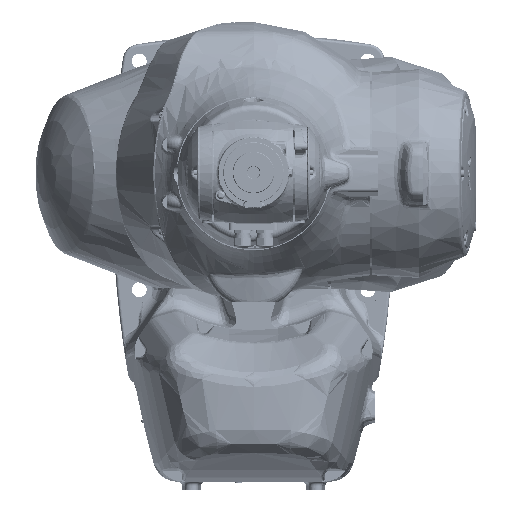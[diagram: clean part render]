
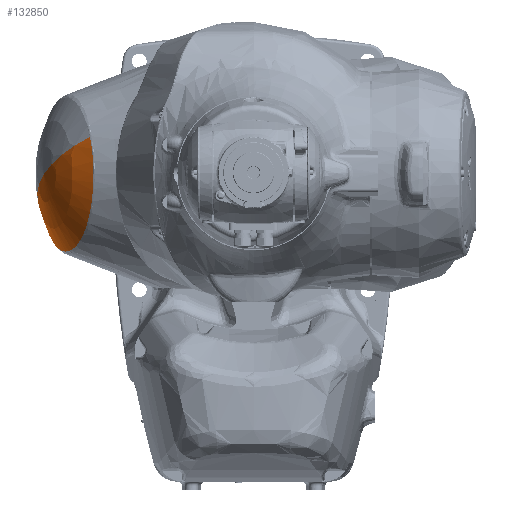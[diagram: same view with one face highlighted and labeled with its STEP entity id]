
A CAD part, top view. The second image highlights one B-rep face of the part: STEP entity #132850.
In plain terms, the highlighted spherical face has radius 167.464 mm.
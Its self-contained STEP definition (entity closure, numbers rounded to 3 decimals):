
#127705=CARTESIAN_POINT('Vertex',(-246.342,-73.357,-67.509)) ;
#127714=CARTESIAN_POINT('Vertex',(-226.704,-92.968,-12.305)) ;
#127718=CARTESIAN_POINT('Control Point',(-246.342,-73.357,-67.509)) ;
#127719=CARTESIAN_POINT('Control Point',(-244.975,-76.544,-63.541)) ;
#127720=CARTESIAN_POINT('Control Point',(-243.532,-79.437,-59.366)) ;
#127721=CARTESIAN_POINT('Control Point',(-242.019,-82.016,-55.013)) ;
#127722=CARTESIAN_POINT('Control Point',(-238.864,-86.536,-45.988)) ;
#127723=CARTESIAN_POINT('Control Point',(-235.492,-89.717,-36.48)) ;
#127724=CARTESIAN_POINT('Control Point',(-233.757,-90.967,-31.625)) ;
#127725=CARTESIAN_POINT('Control Point',(-231.391,-92.17,-25.072)) ;
#127726=CARTESIAN_POINT('Control Point',(-228.976,-92.752,-18.47)) ;
#127727=CARTESIAN_POINT('Control Point',(-228.369,-92.859,-16.817)) ;
#127728=CARTESIAN_POINT('Control Point',(-227.671,-92.936,-14.921)) ;
#127729=CARTESIAN_POINT('Control Point',(-226.971,-92.963,-13.027)) ;
#127730=CARTESIAN_POINT('Control Point',(-226.882,-92.965,-12.786)) ;
#127731=CARTESIAN_POINT('Control Point',(-226.793,-92.967,-12.546)) ;
#127732=CARTESIAN_POINT('Control Point',(-226.704,-92.968,-12.305)) ;
#128323=CARTESIAN_POINT('Vertex',(-219.187,-90.781,7.609)) ;
#128327=CARTESIAN_POINT('Control Point',(-226.703,-92.968,-12.305)) ;
#128328=CARTESIAN_POINT('Control Point',(-225.447,-92.981,-8.912)) ;
#128329=CARTESIAN_POINT('Control Point',(-224.178,-92.84,-5.528)) ;
#128330=CARTESIAN_POINT('Control Point',(-222.904,-92.54,-2.162)) ;
#128331=CARTESIAN_POINT('Control Point',(-221.422,-91.999,1.737)) ;
#128332=CARTESIAN_POINT('Control Point',(-219.954,-91.226,5.593)) ;
#128333=CARTESIAN_POINT('Control Point',(-219.746,-91.111,6.14)) ;
#128334=CARTESIAN_POINT('Control Point',(-219.51,-90.976,6.76)) ;
#128335=CARTESIAN_POINT('Control Point',(-219.275,-90.835,7.378)) ;
#128336=CARTESIAN_POINT('Control Point',(-219.246,-90.817,7.454)) ;
#128337=CARTESIAN_POINT('Control Point',(-219.216,-90.799,7.532)) ;
#128338=CARTESIAN_POINT('Control Point',(-219.187,-90.781,7.609)) ;
#131103=CARTESIAN_POINT('Vertex',(-200.5,-58.188,56.818)) ;
#131107=CARTESIAN_POINT('Control Point',(-219.187,-90.781,7.609)) ;
#131108=CARTESIAN_POINT('Control Point',(-216.131,-88.912,15.646)) ;
#131109=CARTESIAN_POINT('Control Point',(-213.151,-86.02,23.486)) ;
#131110=CARTESIAN_POINT('Control Point',(-210.306,-82.133,30.981)) ;
#131111=CARTESIAN_POINT('Control Point',(-206.585,-75.395,40.783)) ;
#131112=CARTESIAN_POINT('Control Point',(-203.324,-67.042,49.379)) ;
#131113=CARTESIAN_POINT('Control Point',(-202.433,-64.531,51.727)) ;
#131114=CARTESIAN_POINT('Control Point',(-201.525,-61.717,54.119)) ;
#131115=CARTESIAN_POINT('Control Point',(-200.669,-58.776,56.374)) ;
#131116=CARTESIAN_POINT('Control Point',(-200.612,-58.581,56.523)) ;
#131117=CARTESIAN_POINT('Control Point',(-200.556,-58.385,56.671)) ;
#131118=CARTESIAN_POINT('Control Point',(-200.5,-58.188,56.818)) ;
#132253=CARTESIAN_POINT('Vertex',(-193.192,0.,75.988)) ;
#132257=CARTESIAN_POINT('Control Point',(-200.5,-58.188,56.818)) ;
#132258=CARTESIAN_POINT('Control Point',(-200.496,-58.176,56.828)) ;
#132259=CARTESIAN_POINT('Control Point',(-200.493,-58.163,56.837)) ;
#132260=CARTESIAN_POINT('Control Point',(-200.489,-58.15,56.847)) ;
#132261=CARTESIAN_POINT('Control Point',(-200.436,-57.964,56.987)) ;
#132262=CARTESIAN_POINT('Control Point',(-200.383,-57.777,57.126)) ;
#132263=CARTESIAN_POINT('Control Point',(-200.334,-57.603,57.255)) ;
#132264=CARTESIAN_POINT('Control Point',(-198.579,-51.322,61.877)) ;
#132265=CARTESIAN_POINT('Control Point',(-197.057,-44.505,65.875)) ;
#132266=CARTESIAN_POINT('Control Point',(-195.827,-37.456,69.103)) ;
#132267=CARTESIAN_POINT('Control Point',(-194.323,-25.928,73.039)) ;
#132268=CARTESIAN_POINT('Control Point',(-193.511,-13.896,75.157)) ;
#132269=CARTESIAN_POINT('Control Point',(-193.311,-9.509,75.679)) ;
#132270=CARTESIAN_POINT('Control Point',(-193.201,-4.96,75.964)) ;
#132271=CARTESIAN_POINT('Control Point',(-193.192,-0.41,75.988)) ;
#132272=CARTESIAN_POINT('Control Point',(-193.192,-0.273,75.988)) ;
#132273=CARTESIAN_POINT('Control Point',(-193.192,-0.136,75.988)) ;
#132274=CARTESIAN_POINT('Control Point',(-193.192,0.,75.988)) ;
#132483=CARTESIAN_POINT('Vertex',(-197.422,45.356,64.913)) ;
#132550=CARTESIAN_POINT('Control Point',(-193.192,0.,75.988)) ;
#132551=CARTESIAN_POINT('Control Point',(-193.192,8.826,75.988)) ;
#132552=CARTESIAN_POINT('Control Point',(-193.57,17.652,75.005)) ;
#132553=CARTESIAN_POINT('Control Point',(-194.324,26.304,73.039)) ;
#132554=CARTESIAN_POINT('Control Point',(-195.516,35.24,69.919)) ;
#132555=CARTESIAN_POINT('Control Point',(-197.082,43.614,65.806)) ;
#132556=CARTESIAN_POINT('Control Point',(-197.194,44.197,65.513)) ;
#132557=CARTESIAN_POINT('Control Point',(-197.307,44.778,65.216)) ;
#132558=CARTESIAN_POINT('Control Point',(-197.422,45.356,64.913)) ;
#132793=CARTESIAN_POINT('Vertex',(-253.426,-49.821,-88.101)) ;
#132797=CARTESIAN_POINT('Control Point',(-253.426,-49.821,-88.101)) ;
#132798=CARTESIAN_POINT('Control Point',(-252.294,-55.238,-84.8)) ;
#132799=CARTESIAN_POINT('Control Point',(-251.007,-60.345,-81.058)) ;
#132800=CARTESIAN_POINT('Control Point',(-249.579,-65.089,-76.909)) ;
#132801=CARTESIAN_POINT('Control Point',(-248.022,-69.433,-72.386)) ;
#132802=CARTESIAN_POINT('Control Point',(-246.355,-73.327,-67.546)) ;
#132803=CARTESIAN_POINT('Control Point',(-246.35,-73.337,-67.534)) ;
#132804=CARTESIAN_POINT('Control Point',(-246.346,-73.347,-67.521)) ;
#132805=CARTESIAN_POINT('Control Point',(-246.342,-73.357,-67.509)) ;
#132814=CARTESIAN_POINT('Axis2P3D Location',(-95.97,0.,-60.364)) ;
#132819=CARTESIAN_POINT('Axis2P3D Location',(-95.97,0.,-60.364)) ;
#132823=CARTESIAN_POINT('Vertex',(-253.334,0.,-3.088)) ;
#132826=CARTESIAN_POINT('Axis2P3D Location',(-95.97,0.,-60.364)) ;
#132830=CARTESIAN_POINT('Vertex',(-254.333,-45.188,-90.748)) ;
#132834=CARTESIAN_POINT('Control Point',(-254.333,-45.188,-90.748)) ;
#132835=CARTESIAN_POINT('Control Point',(-254.046,-46.759,-89.908)) ;
#132836=CARTESIAN_POINT('Control Point',(-253.743,-48.304,-89.025)) ;
#132837=CARTESIAN_POINT('Control Point',(-253.426,-49.821,-88.101)) ;
#132815=DIRECTION('Axis2P3D Direction',(-0.94,0.,0.342)) ;
#132816=DIRECTION('Axis2P3D XDirection',(0.3,0.479,0.825)) ;
#132820=DIRECTION('Axis2P3D Direction',(0.164,-0.878,0.451)) ;
#132827=DIRECTION('Axis2P3D Direction',(-0.164,0.878,-0.451)) ;
#132817=AXIS2_PLACEMENT_3D('Sphere Axis2P3D',#132814,#132815,#132816) ;
#132821=AXIS2_PLACEMENT_3D('Circle Axis2P3D',#132819,#132820,$) ;
#132828=AXIS2_PLACEMENT_3D('Circle Axis2P3D',#132826,#132827,$) ;
#132840=ORIENTED_EDGE('',*,*,#132825,.F.) ;
#132841=ORIENTED_EDGE('',*,*,#132832,.T.) ;
#132842=ORIENTED_EDGE('',*,*,#132838,.T.) ;
#132843=ORIENTED_EDGE('',*,*,#132806,.T.) ;
#132844=ORIENTED_EDGE('',*,*,#127733,.T.) ;
#132845=ORIENTED_EDGE('',*,*,#128339,.T.) ;
#132846=ORIENTED_EDGE('',*,*,#131119,.T.) ;
#132847=ORIENTED_EDGE('',*,*,#132275,.T.) ;
#132848=ORIENTED_EDGE('',*,*,#132559,.T.) ;
#132850=ADVANCED_FACE('J1',(#132849),#132818,.T.) ;
#127717=B_SPLINE_CURVE_WITH_KNOTS('',5,(#127718,#127719,#127720,#127721,#127722,#127723,#127724,#127725,#127726,#127727,#127728,#127729,#127730,#127731,#127732),.UNSPECIFIED.,.F.,.U.,(6,3,3,3,6),(107.673,175.578,243.755,266.507,269.819),.UNSPECIFIED.) ;
#128326=B_SPLINE_CURVE_WITH_KNOTS('',5,(#128327,#128328,#128329,#128330,#128331,#128332,#128333,#128334,#128335,#128336,#128337,#128338),.UNSPECIFIED.,.F.,.U.,(6,3,3,6),(47.509,93.215,100.795,101.802),.UNSPECIFIED.) ;
#131106=B_SPLINE_CURVE_WITH_KNOTS('',5,(#131107,#131108,#131109,#131110,#131111,#131112,#131113,#131114,#131115,#131116,#131117,#131118),.UNSPECIFIED.,.F.,.U.,(6,3,3,6),(115.519,227.191,271.827,274.991),.UNSPECIFIED.) ;
#132256=B_SPLINE_CURVE_WITH_KNOTS('',5,(#132257,#132258,#132259,#132260,#132261,#132262,#132263,#132264,#132265,#132266,#132267,#132268,#132269,#132270,#132271,#132272,#132273,#132274),.UNSPECIFIED.,.F.,.U.,(6,3,3,3,3,6),(113.163,113.368,116.166,213.803,268.943,270.661),.UNSPECIFIED.) ;
#132549=B_SPLINE_CURVE_WITH_KNOTS('',5,(#132550,#132551,#132552,#132553,#132554,#132555,#132556,#132557,#132558),.UNSPECIFIED.,.F.,.U.,(6,3,6),(88.41,198.683,206.987),.UNSPECIFIED.) ;
#132796=B_SPLINE_CURVE_WITH_KNOTS('',5,(#132797,#132798,#132799,#132800,#132801,#132802,#132803,#132804,#132805),.UNSPECIFIED.,.F.,.U.,(6,3,6),(64.786,147.502,147.717),.UNSPECIFIED.) ;
#132833=B_SPLINE_CURVE_WITH_KNOTS('',3,(#132834,#132835,#132836,#132837),.UNSPECIFIED.,.F.,.U.,(4,4),(151.368,165.26),.UNSPECIFIED.) ;
#132822=CIRCLE('generated circle',#132821,167.464) ;
#132829=CIRCLE('generated circle',#132828,167.464) ;
#127733=EDGE_CURVE('',#127706,#127715,#127717,.T.) ;
#128339=EDGE_CURVE('',#127715,#128324,#128326,.T.) ;
#131119=EDGE_CURVE('',#128324,#131104,#131106,.T.) ;
#132275=EDGE_CURVE('',#131104,#132254,#132256,.T.) ;
#132559=EDGE_CURVE('',#132254,#132484,#132549,.T.) ;
#132806=EDGE_CURVE('',#132794,#127706,#132796,.T.) ;
#132825=EDGE_CURVE('',#132824,#132484,#132822,.F.) ;
#132832=EDGE_CURVE('',#132824,#132831,#132829,.F.) ;
#132838=EDGE_CURVE('',#132831,#132794,#132833,.T.) ;
#132839=EDGE_LOOP('',(#132840,#132841,#132842,#132843,#132844,#132845,#132846,#132847,#132848)) ;
#132849=FACE_OUTER_BOUND('',#132839,.T.) ;
#132818=SPHERICAL_SURFACE('',#132817,167.464) ;
#127706=VERTEX_POINT('',#127705) ;
#127715=VERTEX_POINT('',#127714) ;
#128324=VERTEX_POINT('',#128323) ;
#131104=VERTEX_POINT('',#131103) ;
#132254=VERTEX_POINT('',#132253) ;
#132484=VERTEX_POINT('',#132483) ;
#132794=VERTEX_POINT('',#132793) ;
#132824=VERTEX_POINT('',#132823) ;
#132831=VERTEX_POINT('',#132830) ;
